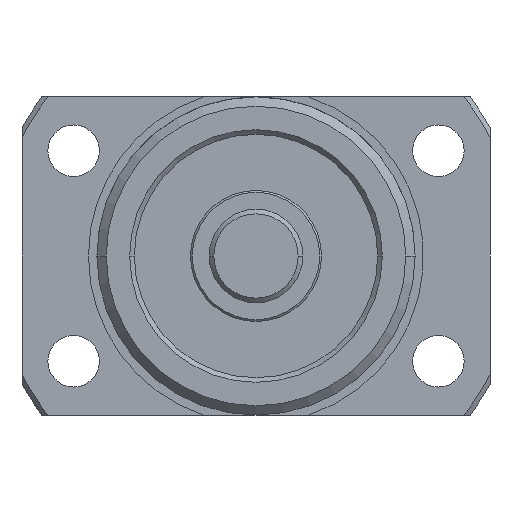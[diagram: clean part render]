
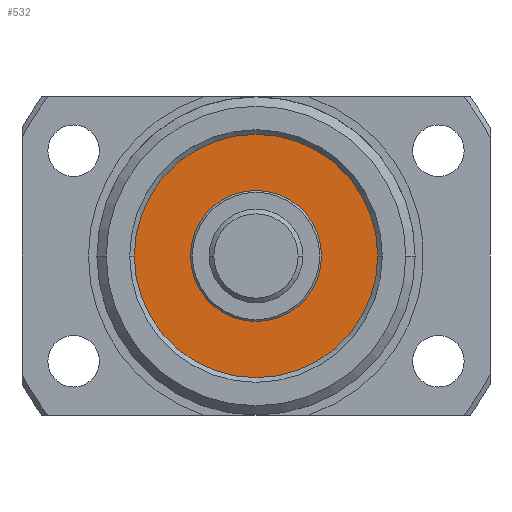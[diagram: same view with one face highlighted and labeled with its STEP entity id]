
A CAD part, left-side view. The second image highlights one B-rep face of the part: STEP entity #532.
In plain terms, the highlighted planar face has unit normal (-1, 0, 0).
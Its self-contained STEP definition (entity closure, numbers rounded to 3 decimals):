
#532 = ADVANCED_FACE ( 'NONE', ( #5795, #5798 ), #3615, .T. ) ;
#651 = EDGE_CURVE ( 'NONE', #1320, #1345, #5394, .T. ) ;
#710 = EDGE_CURVE ( 'NONE', #1345, #1320, #5470, .T. ) ;
#738 = EDGE_CURVE ( 'NONE', #1315, #1449, #5488, .T. ) ;
#928 = DIRECTION ( 'NONE',  ( 0., -1., 0. ) ) ;
#929 = DIRECTION ( 'NONE',  ( -1., 0., 0. ) ) ;
#930 = CARTESIAN_POINT ( 'NONE',  ( -45.5, 0., 0. ) ) ;
#1315 = VERTEX_POINT ( 'NONE', #4630 ) ;
#1320 = VERTEX_POINT ( 'NONE', #4635 ) ;
#1345 = VERTEX_POINT ( 'NONE', #4660 ) ;
#1449 = VERTEX_POINT ( 'NONE', #4764 ) ;
#2033 = EDGE_LOOP ( 'NONE', ( #4111, #4110 ) ) ;
#2040 = EDGE_LOOP ( 'NONE', ( #4113, #4112 ) ) ;
#2306 = CARTESIAN_POINT ( 'NONE',  ( -45.5, 0., 0. ) ) ;
#2307 = DIRECTION ( 'NONE',  ( -1., 0., 0. ) ) ;
#2308 = DIRECTION ( 'NONE',  ( 0., -1., 0. ) ) ;
#2355 = EDGE_CURVE ( 'NONE', #1449, #1315, #5523, .T. ) ;
#3496 = AXIS2_PLACEMENT_3D ( 'NONE', #3619, #3622, #3611 ) ;
#3550 = DIRECTION ( 'NONE',  ( 0., -1., 0. ) ) ;
#3611 = DIRECTION ( 'NONE',  ( 0., -1., 0. ) ) ;
#3615 = PLANE ( 'NONE',  #3496 ) ;
#3619 = CARTESIAN_POINT ( 'NONE',  ( -45.5, 0., 0. ) ) ;
#3622 = DIRECTION ( 'NONE',  ( -1., 0., 0. ) ) ;
#4110 = ORIENTED_EDGE ( 'NONE', *, *, #651, .T. ) ;
#4111 = ORIENTED_EDGE ( 'NONE', *, *, #710, .T. ) ;
#4112 = ORIENTED_EDGE ( 'NONE', *, *, #738, .F. ) ;
#4113 = ORIENTED_EDGE ( 'NONE', *, *, #2355, .F. ) ;
#4630 = CARTESIAN_POINT ( 'NONE',  ( -45.5, 0., 7. ) ) ;
#4635 = CARTESIAN_POINT ( 'NONE',  ( -45.5, 13., 0. ) ) ;
#4660 = CARTESIAN_POINT ( 'NONE',  ( -45.5, -13., 0. ) ) ;
#4764 = CARTESIAN_POINT ( 'NONE',  ( -45.5, 0., -7. ) ) ;
#4829 = CARTESIAN_POINT ( 'NONE',  ( -45.5, 0., 0. ) ) ;
#4830 = DIRECTION ( 'NONE',  ( -1., 0., 0. ) ) ;
#4831 = DIRECTION ( 'NONE',  ( 0., -1., 0. ) ) ;
#5077 = DIRECTION ( 'NONE',  ( -1., 0., 0. ) ) ;
#5078 = CARTESIAN_POINT ( 'NONE',  ( -45.5, 0., 0. ) ) ;
#5178 = AXIS2_PLACEMENT_3D ( 'NONE', #5078, #5077, #3550 ) ;
#5212 = AXIS2_PLACEMENT_3D ( 'NONE', #930, #929, #928 ) ;
#5230 = AXIS2_PLACEMENT_3D ( 'NONE', #2306, #2307, #2308 ) ;
#5249 = AXIS2_PLACEMENT_3D ( 'NONE', #4829, #4830, #4831 ) ;
#5394 = CIRCLE ( 'NONE', #5178, 13. ) ;
#5470 = CIRCLE ( 'NONE', #5212, 13. ) ;
#5488 = CIRCLE ( 'NONE', #5230, 7. ) ;
#5523 = CIRCLE ( 'NONE', #5249, 7. ) ;
#5795 = FACE_BOUND ( 'NONE', #2040, .T. ) ;
#5798 = FACE_OUTER_BOUND ( 'NONE', #2033, .T. ) ;
